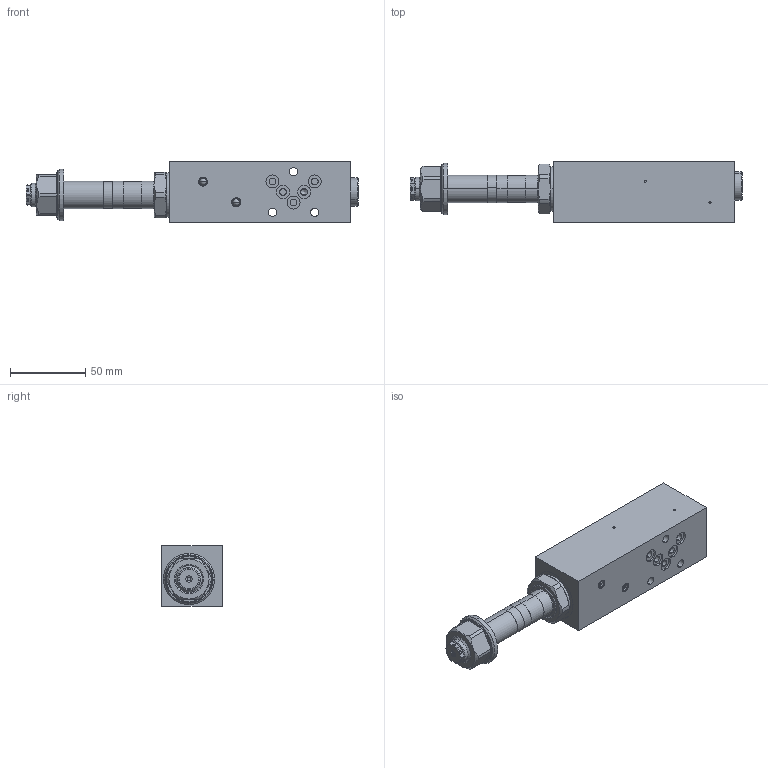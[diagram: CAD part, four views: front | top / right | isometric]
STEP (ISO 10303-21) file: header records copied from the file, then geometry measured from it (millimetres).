
FILE_DESCRIPTION (( 'STEP AP214' ), '1' );
FILE_NAME ('M.BFA04-P_A.STEP', '2017-03-31T06:09:21', ( '' ), ( '' ), 'SwSTEP 2.0', 'SolidWorks 2016', '' );
FILE_SCHEMA (( 'AUTOMOTIVE_DESIGN' ));
Length unit declared in the file: millimetre
Products named in the file (1): M.BFA04-P_A
Bounding box: 220 x 40 x 40 mm (x, y, z)
Volume: 223736.4 mm3; surface area: 36509.3 mm2
Topology: 2 solids, 4 shells, 356 faces, 820 edges, 527 vertices
Faces by surface type: plane 127, cylinder 110, cone 73, torus 18, bspline 16, sphere 12
Entity records: 15136 total; most frequent: CARTESIAN_POINT 3133, DIRECTION 1762, ORIENTED_EDGE 1636, EDGE_CURVE 818, AXIS2_PLACEMENT_3D 702, VERTEX_POINT 527, EDGE_LOOP 421, CIRCLE 361
